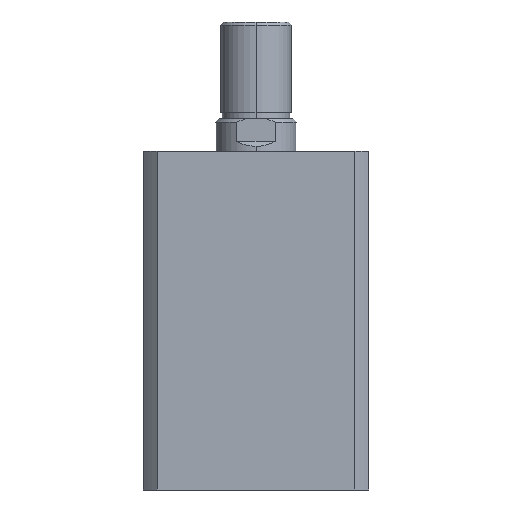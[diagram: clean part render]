
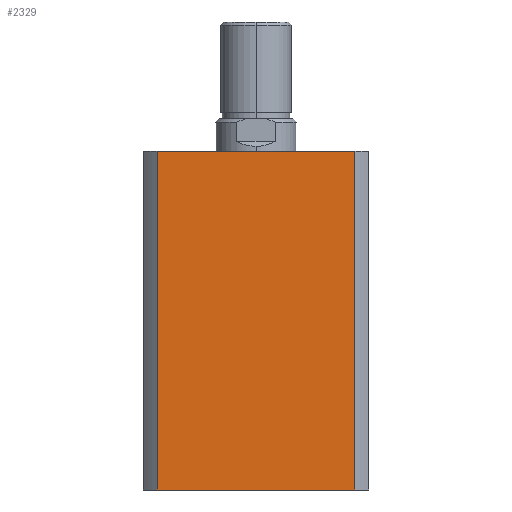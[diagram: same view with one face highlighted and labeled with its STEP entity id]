
A CAD part, left-side view. The second image highlights one B-rep face of the part: STEP entity #2329.
In plain terms, the highlighted planar face has unit normal (-1, 0, 0).
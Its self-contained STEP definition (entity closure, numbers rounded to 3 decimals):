
#74 = EDGE_LOOP ( 'NONE', ( #3844, #3843, #3842, #3841 ) ) ;
#142 = AXIS2_PLACEMENT_3D ( 'NONE', #4593, #4601, #4602 ) ;
#332 = CARTESIAN_POINT ( 'NONE',  ( -35., -30.615, 105. ) ) ;
#333 = DIRECTION ( 'NONE',  ( 0., 0., -1. ) ) ;
#337 = CARTESIAN_POINT ( 'NONE',  ( -35., 30.615, 105. ) ) ;
#338 = CARTESIAN_POINT ( 'NONE',  ( -35., 0., 0. ) ) ;
#343 = DIRECTION ( 'NONE',  ( 0., -1., 0. ) ) ;
#345 = DIRECTION ( 'NONE',  ( 0., 0., -1. ) ) ;
#1226 = LINE ( 'NONE', #3112, #1232 ) ;
#1232 = VECTOR ( 'NONE', #3107, 1000. ) ;
#1323 = LINE ( 'NONE', #338, #1351 ) ;
#1347 = LINE ( 'NONE', #332, #1349 ) ;
#1348 = LINE ( 'NONE', #337, #1353 ) ;
#1349 = VECTOR ( 'NONE', #333, 1000. ) ;
#1351 = VECTOR ( 'NONE', #343, 1000. ) ;
#1353 = VECTOR ( 'NONE', #345, 1000. ) ;
#1468 = CARTESIAN_POINT ( 'NONE',  ( -35., -30.615, 0. ) ) ;
#1470 = CARTESIAN_POINT ( 'NONE',  ( -35., 30.615, 0. ) ) ;
#1621 = VERTEX_POINT ( 'NONE', #4185 ) ;
#1644 = VERTEX_POINT ( 'NONE', #4162 ) ;
#1965 = EDGE_CURVE ( 'NONE', #1644, #1621, #1226, .T. ) ;
#2043 = EDGE_CURVE ( 'NONE', #1621, #5182, #1347, .T. ) ;
#2044 = EDGE_CURVE ( 'NONE', #5184, #5182, #1323, .T. ) ;
#2045 = EDGE_CURVE ( 'NONE', #1644, #5184, #1348, .T. ) ;
#2329 = ADVANCED_FACE ( 'NONE', ( #4950 ), #4598, .F. ) ;
#3107 = DIRECTION ( 'NONE',  ( 0., -1., 0. ) ) ;
#3112 = CARTESIAN_POINT ( 'NONE',  ( -35., 0., 105. ) ) ;
#3841 = ORIENTED_EDGE ( 'NONE', *, *, #2045, .T. ) ;
#3842 = ORIENTED_EDGE ( 'NONE', *, *, #1965, .F. ) ;
#3843 = ORIENTED_EDGE ( 'NONE', *, *, #2043, .F. ) ;
#3844 = ORIENTED_EDGE ( 'NONE', *, *, #2044, .T. ) ;
#4162 = CARTESIAN_POINT ( 'NONE',  ( -35., 30.615, 105. ) ) ;
#4185 = CARTESIAN_POINT ( 'NONE',  ( -35., -30.615, 105. ) ) ;
#4593 = CARTESIAN_POINT ( 'NONE',  ( -35., 0., 105. ) ) ;
#4598 = PLANE ( 'NONE',  #142 ) ;
#4601 = DIRECTION ( 'NONE',  ( 1., 0., 0. ) ) ;
#4602 = DIRECTION ( 'NONE',  ( 0., 1., 0. ) ) ;
#4950 = FACE_OUTER_BOUND ( 'NONE', #74, .T. ) ;
#5182 = VERTEX_POINT ( 'NONE', #1468 ) ;
#5184 = VERTEX_POINT ( 'NONE', #1470 ) ;
